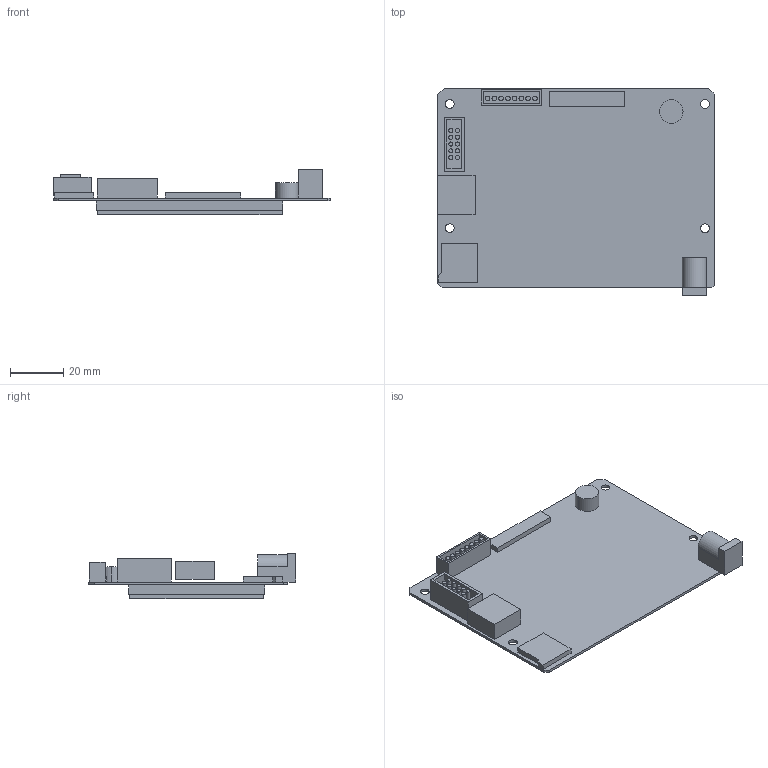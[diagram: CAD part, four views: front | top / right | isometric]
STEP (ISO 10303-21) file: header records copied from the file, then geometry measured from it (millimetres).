
FILE_DESCRIPTION((''),'2;1');
FILE_NAME('EKT028','2021-09-02T',('Administrator'),(''),'PRO/ENGINEER BY PARAMETRIC TECHNOLOGY CORPORATION, 2008380','PRO/ENGINEER BY PARAMETRIC TECHNOLOGY CORPORATION, 2008380','');
FILE_SCHEMA(('CONFIG_CONTROL_DESIGN'));
Length unit declared in the file: millimetre
Products named in the file (1): EKT028
Bounding box: 103.97 x 77.98 x 17.23 mm (x, y, z)
Volume: 31484.8 mm3; surface area: 21432.4 mm2
Topology: 2 solids, 2 shells, 131 faces, 8666 edges, 14079 vertices
Faces by surface type: plane 84, cylinder 47
Entity records: 48462 total; most frequent: DIRECTION 11890, CARTESIAN_POINT 8996, TRIMMED_CURVE 8368, VECTOR 5706, LINE 5706, AXIS2_PLACEMENT_3D 3092, CIRCLE 2960, ORIENTED_EDGE 596
